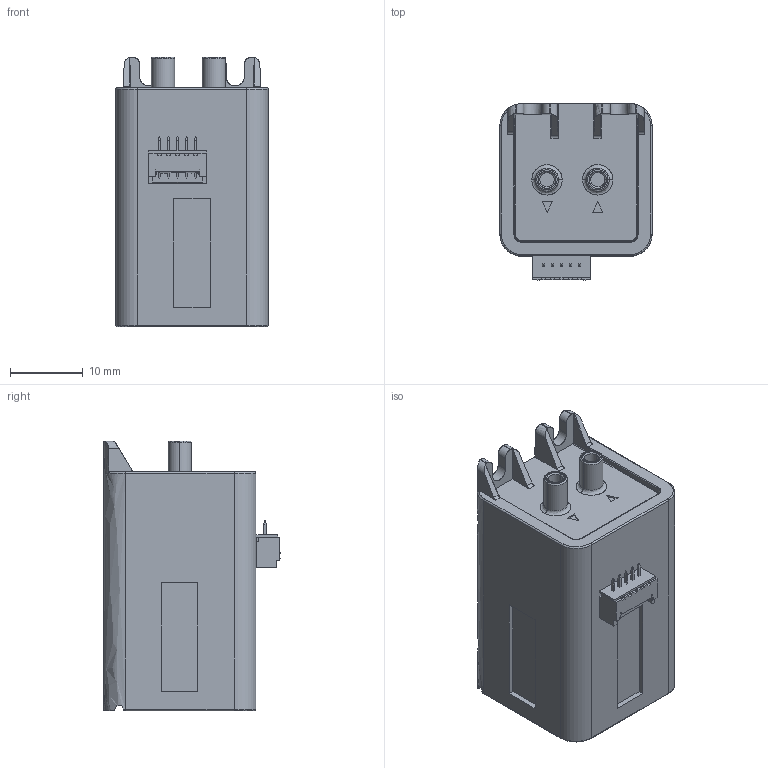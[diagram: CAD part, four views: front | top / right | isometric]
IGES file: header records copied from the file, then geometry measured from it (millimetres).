
Start section: SolidWorks IGES file using analytic representation for surfaces
Global section: file name: \\XSERVER\Xavitech Data\Produktion\Standardprodukter\Mekanik\Assembly\V200\Pump dummies for web\V200-Black edition-3 and 5-wire-v2.IGS; native system: SolidWorks 2014; preprocessor: SolidWorks 2014; author: JGP01; date: 150423.140123; units: millimetre
Bounding box: 21 x 24.36 x 37.15 mm (x, y, z)
Surface area: 4226.9 mm2 (no closed solid volume)
Topology: 0 solids, 0 shells, 276 faces, 2112 edges, 2106 vertices
Faces by surface type: bspline 230, revolution 46
